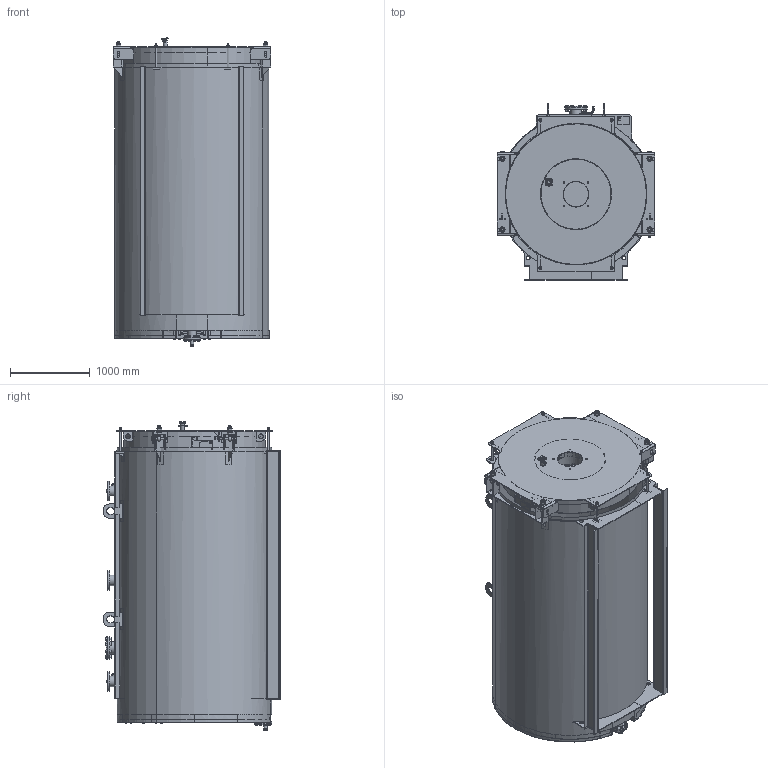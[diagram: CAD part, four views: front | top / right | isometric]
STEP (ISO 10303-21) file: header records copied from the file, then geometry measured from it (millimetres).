
FILE_DESCRIPTION(('STEP AP214'), '1');
FILE_NAME('ÈÊÇ.340.020.00.000 Êîòåë IGNIS S-2000 óïð (05.25)', '', ('UNSPECIFIED'), ('UNSPECIFIED'), 'ASCON STEP Converter 1.6', 'ASCON Math Kernel', '');
FILE_SCHEMA(('AUTOMOTIVE_DESIGN { 1 0 10303 214 3 1 1}'));
Length unit declared in the file: millimetre
Bounding box: 1980 x 2222 x 3874.88 mm (x, y, z)
Volume: 294945687.9 mm3; surface area: 59179792.1 mm2
Topology: 62 solids, 66 shells, 3379 faces, 8331 edges, 5311 vertices
Faces by surface type: plane 2107, cylinder 943, cone 240, torus 51, bspline 34, sphere 4
Full cylindrical faces by diameter (mm): 3.6 x4, 5 x2, 6 x8, 8 x19, 8.917 x4, 9 x1, 10 x5, 10.627 x2, 11 x6, 12 x8, 13 x8, 15.7 x6, 16 x19, 17.294 x4, 17.4 x2, 17.5 x6, 18 x44, 20 x25, 20.1 x2, 21 x17, 21.3 x6, 21.5 x2, 22 x23, 30 x16, 31 x10, 35.9 x1, 36 x12, 37 x13, 39 x8, 41 x1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
Entity records: 157642 total; most frequent: CARTESIAN_POINT 51572, DIRECTION 16039, ORIENTED_EDGE 15461, EDGE_CURVE 7748, AXIS2_PLACEMENT_3D 5767, VERTEX_POINT 5307, EDGE_LOOP 4537, LINE 4505
